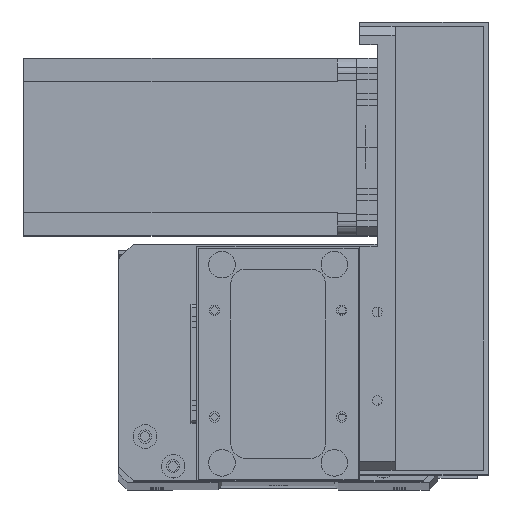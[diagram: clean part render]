
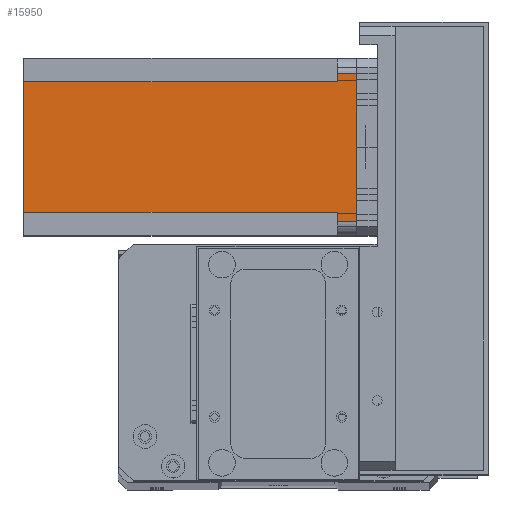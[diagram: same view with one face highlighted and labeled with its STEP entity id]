
A CAD part, top view. The second image highlights one B-rep face of the part: STEP entity #15950.
In plain terms, the highlighted planar face has unit normal (0, 0, 1) as drawn and (0, 1, 0) by its records, which use the part's own axes.
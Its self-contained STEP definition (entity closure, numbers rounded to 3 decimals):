
#151 = VERTEX_POINT ( 'NONE', #28229 ) ;
#467 = CARTESIAN_POINT ( 'NONE',  ( 55., 60., -6.5 ) ) ;
#660 = CARTESIAN_POINT ( 'NONE',  ( 0., 60., -112.5 ) ) ;
#680 = DIRECTION ( 'NONE',  ( -1., 0., 0. ) ) ;
#762 = PLANE ( 'NONE',  #27209 ) ;
#1184 = DIRECTION ( 'NONE',  ( 0., 0., 1. ) ) ;
#2675 = LINE ( 'NONE', #29371, #14818 ) ;
#2946 = LINE ( 'NONE', #19206, #27982 ) ;
#3484 = CARTESIAN_POINT ( 'NONE',  ( 52., 60., -112.5 ) ) ;
#4339 = CARTESIAN_POINT ( 'NONE',  ( 55., 60., -112.5 ) ) ;
#4703 = DIRECTION ( 'NONE',  ( -1., 0., 0. ) ) ;
#4755 = LINE ( 'NONE', #28705, #29789 ) ;
#5109 = CARTESIAN_POINT ( 'NONE',  ( 55., 60., 0. ) ) ;
#5121 = EDGE_CURVE ( 'NONE', #22764, #151, #16242, .T. ) ;
#5402 = EDGE_CURVE ( 'NONE', #26468, #21859, #2946, .T. ) ;
#5417 = ORIENTED_EDGE ( 'NONE', *, *, #25737, .T. ) ;
#5723 = ORIENTED_EDGE ( 'NONE', *, *, #5402, .T. ) ;
#7222 = VECTOR ( 'NONE', #680, 1000. ) ;
#7278 = ORIENTED_EDGE ( 'NONE', *, *, #7711, .F. ) ;
#7387 = VERTEX_POINT ( 'NONE', #12125 ) ;
#7711 = EDGE_CURVE ( 'NONE', #13150, #151, #4755, .T. ) ;
#8001 = CARTESIAN_POINT ( 'NONE',  ( 8., 60., -112.5 ) ) ;
#9221 = CARTESIAN_POINT ( 'NONE',  ( 52., 60., -6.5 ) ) ;
#9257 = VECTOR ( 'NONE', #26110, 1000. ) ;
#10607 = DIRECTION ( 'NONE',  ( 0., 1., 0. ) ) ;
#10855 = DIRECTION ( 'NONE',  ( 0., 0., 1. ) ) ;
#11658 = EDGE_CURVE ( 'NONE', #30266, #24308, #15679, .T. ) ;
#11791 = DIRECTION ( 'NONE',  ( -1., 0., 0. ) ) ;
#11819 = ORIENTED_EDGE ( 'NONE', *, *, #28837, .T. ) ;
#12125 = CARTESIAN_POINT ( 'NONE',  ( 8., 60., -6.5 ) ) ;
#12439 = DIRECTION ( 'NONE',  ( 0., 0., -1. ) ) ;
#12615 = ORIENTED_EDGE ( 'NONE', *, *, #5121, .T. ) ;
#13092 = VECTOR ( 'NONE', #16511, 1000. ) ;
#13150 = VERTEX_POINT ( 'NONE', #5109 ) ;
#13161 = EDGE_CURVE ( 'NONE', #7387, #21859, #2675, .T. ) ;
#13751 = CARTESIAN_POINT ( 'NONE',  ( 5., 60., -6.5 ) ) ;
#13833 = LINE ( 'NONE', #4339, #13092 ) ;
#14818 = VECTOR ( 'NONE', #12439, 1000. ) ;
#15679 = LINE ( 'NONE', #9221, #9257 ) ;
#15738 = CARTESIAN_POINT ( 'NONE',  ( 5., 60., -112.5 ) ) ;
#15950 = ADVANCED_FACE ( 'NONE', ( #31376 ), #762, .T. ) ;
#16121 = EDGE_LOOP ( 'NONE', ( #7278, #11819, #22566, #26186, #5723, #22928, #5417, #12615 ) ) ;
#16242 = LINE ( 'NONE', #15738, #17010 ) ;
#16511 = DIRECTION ( 'NONE',  ( 0., 0., -1. ) ) ;
#17010 = VECTOR ( 'NONE', #1184, 1000. ) ;
#18056 = CARTESIAN_POINT ( 'NONE',  ( 52., 60., -112.5 ) ) ;
#19013 = VECTOR ( 'NONE', #10855, 1000. ) ;
#19206 = CARTESIAN_POINT ( 'NONE',  ( 0., 60., -112.5 ) ) ;
#20095 = LINE ( 'NONE', #24869, #7222 ) ;
#21859 = VERTEX_POINT ( 'NONE', #8001 ) ;
#22566 = ORIENTED_EDGE ( 'NONE', *, *, #11658, .F. ) ;
#22603 = EDGE_CURVE ( 'NONE', #26468, #30266, #25454, .T. ) ;
#22764 = VERTEX_POINT ( 'NONE', #13751 ) ;
#22928 = ORIENTED_EDGE ( 'NONE', *, *, #13161, .F. ) ;
#24308 = VERTEX_POINT ( 'NONE', #467 ) ;
#24869 = CARTESIAN_POINT ( 'NONE',  ( 8., 60., -6.5 ) ) ;
#25454 = LINE ( 'NONE', #3484, #19013 ) ;
#25737 = EDGE_CURVE ( 'NONE', #7387, #22764, #20095, .T. ) ;
#26110 = DIRECTION ( 'NONE',  ( 1., 0., 0. ) ) ;
#26186 = ORIENTED_EDGE ( 'NONE', *, *, #22603, .F. ) ;
#26468 = VERTEX_POINT ( 'NONE', #18056 ) ;
#26621 = DIRECTION ( 'NONE',  ( 0., 0., 1. ) ) ;
#27209 = AXIS2_PLACEMENT_3D ( 'NONE', #660, #10607, #26621 ) ;
#27982 = VECTOR ( 'NONE', #4703, 1000. ) ;
#28229 = CARTESIAN_POINT ( 'NONE',  ( 5., 60., 0. ) ) ;
#28705 = CARTESIAN_POINT ( 'NONE',  ( 0., 60., 0. ) ) ;
#28837 = EDGE_CURVE ( 'NONE', #13150, #24308, #13833, .T. ) ;
#29232 = CARTESIAN_POINT ( 'NONE',  ( 52., 60., -6.5 ) ) ;
#29371 = CARTESIAN_POINT ( 'NONE',  ( 8., 60., -112.5 ) ) ;
#29789 = VECTOR ( 'NONE', #11791, 1000. ) ;
#30266 = VERTEX_POINT ( 'NONE', #29232 ) ;
#31376 = FACE_OUTER_BOUND ( 'NONE', #16121, .T. ) ;
